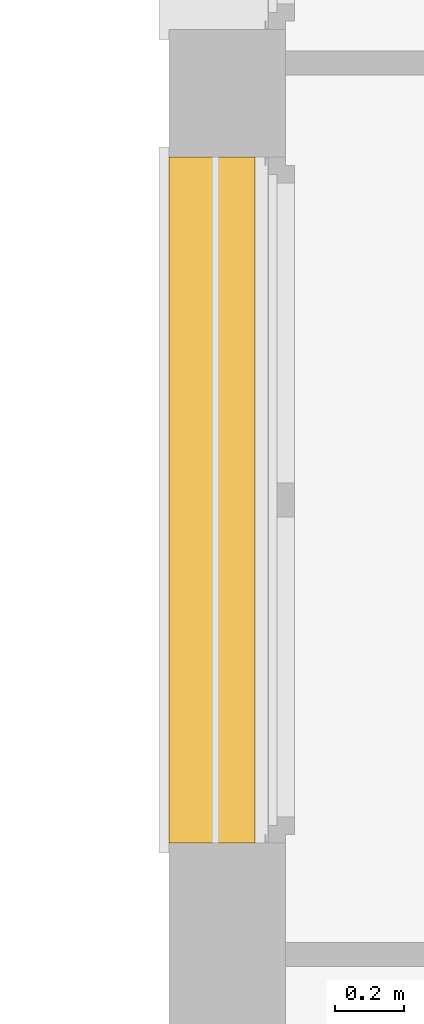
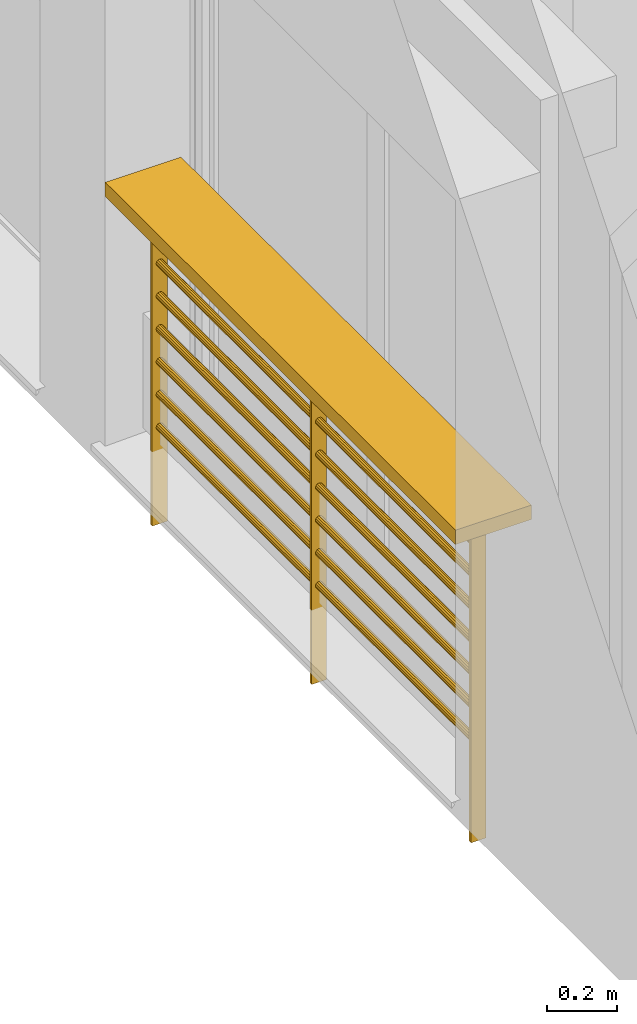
# One storey, part 93 of 164: 1 railing.
"""IFC2X3 building model written with IfcOpenShell, lengths in millimetres."""

from ifc_helpers import new_model, entity, si_unit, converted_unit, derived_unit, money_unit, direction, frame, origin_with_axes, place, context, subcontext, project, spatial, faceted_brep, source, transform, mapped, type_object, element, save


model = new_model("IFC2X3")

# Units and contexts
model_context = context("Model", 3, precision=0.01, world=origin_with_axes(), true_north=direction((0.0, 1.0)))
body_context = subcontext(model_context, "Body", "Model", "MODEL_VIEW")
ifc_project = project(units=[si_unit("LENGTHUNIT", "METRE", prefix="MILLI"), si_unit("AREAUNIT", "SQUARE_METRE"), si_unit("VOLUMEUNIT", "CUBIC_METRE"), converted_unit("PLANEANGLEUNIT", "DEGREE", entity("IfcPlaneAngleMeasure", 0.0174532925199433), si_unit("PLANEANGLEUNIT", "RADIAN"), dimensions=[0, 0, 0, 0, 0, 0, 0]), money_unit("USD"), converted_unit("TIMEUNIT", "Year", entity("IfcTimeMeasure", 31557600.0), si_unit("TIMEUNIT", "SECOND"), dimensions=[0, 0, 1, 0, 0, 0, 0]), si_unit("MASSUNIT", "GRAM", prefix="KILO"), si_unit("THERMODYNAMICTEMPERATUREUNIT", "DEGREE_CELSIUS"), si_unit("LUMINOUSINTENSITYUNIT", "LUMEN"), si_unit("ENERGYUNIT", "JOULE", prefix="MEGA"), derived_unit("THERMALCONDUCTANCEUNIT", [(si_unit("POWERUNIT", "WATT"), 1), (si_unit("LENGTHUNIT", "METRE"), -1), (si_unit("THERMODYNAMICTEMPERATUREUNIT", "KELVIN"), -1)]), derived_unit("SPECIFICHEATCAPACITYUNIT", [(si_unit("ENERGYUNIT", "JOULE"), 1), (si_unit("MASSUNIT", "GRAM", prefix="KILO"), -1), (si_unit("THERMODYNAMICTEMPERATUREUNIT", "KELVIN"), -1)]), derived_unit("MASSDENSITYUNIT", [(si_unit("MASSUNIT", "GRAM", prefix="KILO"), 1), (si_unit("VOLUMEUNIT", "CUBIC_METRE"), -1)])], contexts=[model_context])

# Site, building, storey
site_placement = place(None, origin_with_axes())
site = spatial("IfcSite", under=ifc_project, at=site_placement, Name="Site", CompositionType="ELEMENT")
building_placement = place(site_placement, origin_with_axes())
building = spatial("IfcBuilding", under=site, at=building_placement, Name="Bâtiment", CompositionType="ELEMENT")
storey_placement = place(building_placement, frame((0.0, 0.0, 5750.0), z_axis=(0.0, 0.0, 1.0), x_axis=(1.0, 0.0, 0.0)))
storey = spatial("IfcBuildingStorey", under=building, at=storey_placement, Name="Etage1", CompositionType="ELEMENT", Elevation=5750.0)

# Railing
railing_type = type_object("IfcRailingType", Name="Cadre avec câble 01 20", PredefinedType="NOTDEFINED")
shared_shape = source(origin_with_axes(), body_context, "Body", "Brep", [
    faceted_brep([(0.0, 125.0, 950.0), (0.0, -125.0, 950.0), (0.0, -125.0, 1000.0), (0.0, 125.0, 1000.0), (1999.999999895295, 125.0, 950.0), (1999.999999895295, -125.0, 950.0), (1999.999999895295, -125.0, 1000.0), (1999.999999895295, 125.0, 1000.0)], [[[0, 1, 2, 3]], [[0, 4, 5, 1]], [[1, 5, 6, 2]], [[3, 2, 6, 7]], [[4, 0, 3, 7]], [[5, 4, 7, 6]]]),
    faceted_brep([(84.99999999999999, -25.0, -176.0), (95.0, -25.0, -176.0), (95.0, -25.0, 950.0), (84.99999999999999, -25.0, 950.0), (84.99999999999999, 25.0, -176.0), (95.0, 25.0, -176.0), (95.0, 25.0, 950.0), (84.99999999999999, 25.0, 950.0)], [[[0, 1, 2, 3]], [[0, 4, 5, 1]], [[1, 5, 6, 2]], [[3, 2, 6, 7]], [[4, 0, 3, 7]], [[5, 4, 7, 6]]]),
    faceted_brep([(994.9999999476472, -25.0, -176.0), (1004.999999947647, -25.0, -176.0), (1004.999999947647, -25.0, 950.0), (994.9999999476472, -25.0, 950.0), (994.9999999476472, 25.0, -176.0), (1004.999999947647, 25.0, -176.0), (1004.999999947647, 25.0, 950.0), (994.9999999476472, 25.0, 950.0)], [[[0, 1, 2, 3]], [[0, 4, 5, 1]], [[1, 5, 6, 2]], [[3, 2, 6, 7]], [[4, 0, 3, 7]], [[5, 4, 7, 6]]]),
    faceted_brep([(1904.999999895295, -25.0, -176.0), (1914.999999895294, -25.0, -176.0), (1914.999999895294, -25.0, 950.0), (1904.999999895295, -25.0, 950.0), (1904.999999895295, 25.0, -176.0), (1914.999999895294, 25.0, -176.0), (1914.999999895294, 25.0, 950.0), (1904.999999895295, 25.0, 950.0)], [[[0, 1, 2, 3]], [[0, 4, 5, 1]], [[1, 5, 6, 2]], [[3, 2, 6, 7]], [[4, 0, 3, 7]], [[5, 4, 7, 6]]]),
    faceted_brep([(994.9999999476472, 10.82531754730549, 168.7500000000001), (994.9999999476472, 12.5, 162.5000000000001), (95.0, 12.5, 162.5), (95.0, 10.82531754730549, 168.75), (994.9999999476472, 10.82531754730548, 156.2500000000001), (994.9999999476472, 6.250000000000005, 173.3253175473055), (994.9999999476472, 0.0, 175.0000000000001), (994.9999999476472, -6.249999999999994, 173.3253175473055), (994.9999999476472, -10.82531754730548, 168.7500000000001), (994.9999999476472, -12.5, 162.5000000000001), (994.9999999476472, -10.82531754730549, 156.2500000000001), (994.9999999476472, -6.250000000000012, 151.6746824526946), (994.9999999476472, 0.0, 150.0000000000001), (994.9999999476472, 6.249999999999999, 151.6746824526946), (95.0, 10.82531754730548, 156.25), (95.0, 6.249999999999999, 151.6746824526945), (95.0, 0.0, 150.0), (95.0, -6.250000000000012, 151.6746824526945), (95.0, -10.82531754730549, 156.25), (95.0, -12.5, 162.5), (95.0, -10.82531754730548, 168.75), (95.0, -6.249999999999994, 173.3253175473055), (95.0, 0.0, 175.0), (95.0, 6.250000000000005, 173.3253175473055)], [[[0, 1, 2, 3]], [[4, 1, 0, 5, 6, 7, 8, 9, 10, 11, 12, 13]], [[1, 4, 14, 2]], [[3, 2, 14, 15, 16, 17, 18, 19, 20, 21, 22, 23]], [[5, 0, 3, 23]], [[6, 5, 23, 22]], [[7, 6, 22, 21]], [[8, 7, 21, 20]], [[9, 8, 20, 19]], [[10, 9, 19, 18]], [[11, 10, 18, 17]], [[12, 11, 17, 16]], [[13, 12, 16, 15]], [[4, 13, 15, 14]]]),
    faceted_brep([(1004.999999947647, 10.82531754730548, 156.2500000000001), (1004.999999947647, 12.5, 162.5000000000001), (1904.999999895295, 12.5, 162.5000000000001), (1904.999999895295, 10.82531754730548, 156.2500000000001), (1004.999999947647, 10.82531754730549, 168.7500000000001), (1004.999999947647, 6.249999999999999, 151.6746824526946), (1004.999999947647, 0.0, 150.0000000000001), (1004.999999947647, -6.250000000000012, 151.6746824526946), (1004.999999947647, -10.82531754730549, 156.2500000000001), (1004.999999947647, -12.5, 162.5000000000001), (1004.999999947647, -10.82531754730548, 168.7500000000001), (1004.999999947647, -6.249999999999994, 173.3253175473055), (1004.999999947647, 0.0, 175.0000000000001), (1004.999999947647, 6.250000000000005, 173.3253175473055), (1904.999999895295, 10.82531754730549, 168.7500000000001), (1904.999999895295, 6.250000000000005, 173.3253175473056), (1904.999999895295, 0.0, 175.0000000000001), (1904.999999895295, -6.249999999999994, 173.3253175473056), (1904.999999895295, -10.82531754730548, 168.7500000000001), (1904.999999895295, -12.5, 162.5000000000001), (1904.999999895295, -10.82531754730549, 156.2500000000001), (1904.999999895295, -6.250000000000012, 151.6746824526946), (1904.999999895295, 0.0, 150.0000000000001), (1904.999999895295, 6.249999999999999, 151.6746824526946)], [[[0, 1, 2, 3]], [[4, 1, 0, 5, 6, 7, 8, 9, 10, 11, 12, 13]], [[1, 4, 14, 2]], [[3, 2, 14, 15, 16, 17, 18, 19, 20, 21, 22, 23]], [[5, 0, 3, 23]], [[6, 5, 23, 22]], [[7, 6, 22, 21]], [[8, 7, 21, 20]], [[9, 8, 20, 19]], [[10, 9, 19, 18]], [[11, 10, 18, 17]], [[12, 11, 17, 16]], [[13, 12, 16, 15]], [[4, 13, 15, 14]]]),
    faceted_brep([(994.9999999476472, 10.82531754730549, 283.0357142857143), (994.9999999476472, 12.5, 276.7857142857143), (95.0, 12.5, 276.7857142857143), (95.0, 10.82531754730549, 283.0357142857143), (994.9999999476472, 10.82531754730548, 270.5357142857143), (994.9999999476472, 6.250000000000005, 287.6110318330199), (994.9999999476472, 0.0, 289.2857142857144), (994.9999999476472, -6.249999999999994, 287.6110318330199), (994.9999999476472, -10.82531754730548, 283.0357142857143), (994.9999999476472, -12.5, 276.7857142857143), (994.9999999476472, -10.82531754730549, 270.5357142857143), (994.9999999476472, -6.250000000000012, 265.9603967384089), (994.9999999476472, 0.0, 264.2857142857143), (994.9999999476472, 6.249999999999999, 265.9603967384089), (95.0, 10.82531754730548, 270.5357142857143), (95.0, 6.249999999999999, 265.9603967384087), (95.0, 0.0, 264.2857142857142), (95.0, -6.250000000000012, 265.9603967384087), (95.0, -10.82531754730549, 270.5357142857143), (95.0, -12.5, 276.7857142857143), (95.0, -10.82531754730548, 283.0357142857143), (95.0, -6.249999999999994, 287.6110318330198), (95.0, 0.0, 289.2857142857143), (95.0, 6.250000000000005, 287.6110318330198)], [[[0, 1, 2, 3]], [[4, 1, 0, 5, 6, 7, 8, 9, 10, 11, 12, 13]], [[1, 4, 14, 2]], [[3, 2, 14, 15, 16, 17, 18, 19, 20, 21, 22, 23]], [[5, 0, 3, 23]], [[6, 5, 23, 22]], [[7, 6, 22, 21]], [[8, 7, 21, 20]], [[9, 8, 20, 19]], [[10, 9, 19, 18]], [[11, 10, 18, 17]], [[12, 11, 17, 16]], [[13, 12, 16, 15]], [[4, 13, 15, 14]]]),
    faceted_brep([(1004.999999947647, 10.82531754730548, 270.5357142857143), (1004.999999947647, 12.5, 276.7857142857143), (1904.999999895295, 12.5, 276.7857142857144), (1904.999999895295, 10.82531754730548, 270.5357142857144), (1004.999999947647, 10.82531754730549, 283.0357142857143), (1004.999999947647, 6.249999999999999, 265.9603967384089), (1004.999999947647, 0.0, 264.2857142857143), (1004.999999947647, -6.250000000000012, 265.9603967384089), (1004.999999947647, -10.82531754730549, 270.5357142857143), (1004.999999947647, -12.5, 276.7857142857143), (1004.999999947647, -10.82531754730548, 283.0357142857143), (1004.999999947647, -6.249999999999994, 287.6110318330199), (1004.999999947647, 0.0, 289.2857142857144), (1004.999999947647, 6.250000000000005, 287.6110318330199), (1904.999999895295, 10.82531754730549, 283.0357142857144), (1904.999999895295, 6.250000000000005, 287.6110318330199), (1904.999999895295, 0.0, 289.2857142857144), (1904.999999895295, -6.249999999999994, 287.6110318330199), (1904.999999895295, -10.82531754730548, 283.0357142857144), (1904.999999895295, -12.5, 276.7857142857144), (1904.999999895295, -10.82531754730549, 270.5357142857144), (1904.999999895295, -6.250000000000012, 265.9603967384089), (1904.999999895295, 0.0, 264.2857142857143), (1904.999999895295, 6.249999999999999, 265.9603967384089)], [[[0, 1, 2, 3]], [[4, 1, 0, 5, 6, 7, 8, 9, 10, 11, 12, 13]], [[1, 4, 14, 2]], [[3, 2, 14, 15, 16, 17, 18, 19, 20, 21, 22, 23]], [[5, 0, 3, 23]], [[6, 5, 23, 22]], [[7, 6, 22, 21]], [[8, 7, 21, 20]], [[9, 8, 20, 19]], [[10, 9, 19, 18]], [[11, 10, 18, 17]], [[12, 11, 17, 16]], [[13, 12, 16, 15]], [[4, 13, 15, 14]]]),
    faceted_brep([(994.9999999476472, 10.82531754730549, 397.3214285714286), (994.9999999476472, 12.5, 391.0714285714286), (95.0, 12.5, 391.0714285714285), (95.0, 10.82531754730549, 397.3214285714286), (994.9999999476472, 10.82531754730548, 384.8214285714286), (994.9999999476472, 6.250000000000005, 401.896746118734), (994.9999999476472, 0.0, 403.5714285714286), (994.9999999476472, -6.249999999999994, 401.896746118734), (994.9999999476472, -10.82531754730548, 397.3214285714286), (994.9999999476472, -12.5, 391.0714285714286), (994.9999999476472, -10.82531754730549, 384.8214285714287), (994.9999999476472, -6.250000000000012, 380.2461110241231), (994.9999999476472, 0.0, 378.5714285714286), (994.9999999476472, 6.249999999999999, 380.2461110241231), (95.0, 10.82531754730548, 384.8214285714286), (95.0, 6.249999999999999, 380.2461110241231), (95.0, 0.0, 378.5714285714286), (95.0, -6.250000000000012, 380.2461110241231), (95.0, -10.82531754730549, 384.8214285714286), (95.0, -12.5, 391.0714285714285), (95.0, -10.82531754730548, 397.3214285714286), (95.0, -6.249999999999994, 401.896746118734), (95.0, 0.0, 403.5714285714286), (95.0, 6.250000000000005, 401.896746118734)], [[[0, 1, 2, 3]], [[4, 1, 0, 5, 6, 7, 8, 9, 10, 11, 12, 13]], [[1, 4, 14, 2]], [[3, 2, 14, 15, 16, 17, 18, 19, 20, 21, 22, 23]], [[5, 0, 3, 23]], [[6, 5, 23, 22]], [[7, 6, 22, 21]], [[8, 7, 21, 20]], [[9, 8, 20, 19]], [[10, 9, 19, 18]], [[11, 10, 18, 17]], [[12, 11, 17, 16]], [[13, 12, 16, 15]], [[4, 13, 15, 14]]]),
    faceted_brep([(1004.999999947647, 10.82531754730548, 384.8214285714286), (1004.999999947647, 12.5, 391.0714285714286), (1904.999999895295, 12.5, 391.0714285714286), (1904.999999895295, 10.82531754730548, 384.8214285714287), (1004.999999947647, 10.82531754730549, 397.3214285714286), (1004.999999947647, 6.249999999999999, 380.2461110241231), (1004.999999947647, 0.0, 378.5714285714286), (1004.999999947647, -6.250000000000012, 380.2461110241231), (1004.999999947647, -10.82531754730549, 384.8214285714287), (1004.999999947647, -12.5, 391.0714285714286), (1004.999999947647, -10.82531754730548, 397.3214285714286), (1004.999999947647, -6.249999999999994, 401.896746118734), (1004.999999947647, 0.0, 403.5714285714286), (1004.999999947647, 6.250000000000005, 401.896746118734), (1904.999999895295, 10.82531754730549, 397.3214285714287), (1904.999999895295, 6.250000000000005, 401.8967461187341), (1904.999999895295, 0.0, 403.5714285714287), (1904.999999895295, -6.249999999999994, 401.8967461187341), (1904.999999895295, -10.82531754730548, 397.3214285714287), (1904.999999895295, -12.5, 391.0714285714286), (1904.999999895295, -10.82531754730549, 384.8214285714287), (1904.999999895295, -6.250000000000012, 380.2461110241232), (1904.999999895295, 0.0, 378.5714285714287), (1904.999999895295, 6.249999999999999, 380.2461110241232)], [[[0, 1, 2, 3]], [[4, 1, 0, 5, 6, 7, 8, 9, 10, 11, 12, 13]], [[1, 4, 14, 2]], [[3, 2, 14, 15, 16, 17, 18, 19, 20, 21, 22, 23]], [[5, 0, 3, 23]], [[6, 5, 23, 22]], [[7, 6, 22, 21]], [[8, 7, 21, 20]], [[9, 8, 20, 19]], [[10, 9, 19, 18]], [[11, 10, 18, 17]], [[12, 11, 17, 16]], [[13, 12, 16, 15]], [[4, 13, 15, 14]]]),
    faceted_brep([(994.9999999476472, 10.82531754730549, 511.6071428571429), (994.9999999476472, 12.5, 505.3571428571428), (95.0, 12.5, 505.3571428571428), (95.0, 10.82531754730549, 511.6071428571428), (994.9999999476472, 10.82531754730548, 499.1071428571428), (994.9999999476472, 6.250000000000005, 516.1824604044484), (994.9999999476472, 0.0, 517.8571428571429), (994.9999999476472, -6.249999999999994, 516.1824604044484), (994.9999999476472, -10.82531754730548, 511.6071428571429), (994.9999999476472, -12.5, 505.3571428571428), (994.9999999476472, -10.82531754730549, 499.1071428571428), (994.9999999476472, -6.250000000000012, 494.5318253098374), (994.9999999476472, 0.0, 492.8571428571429), (994.9999999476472, 6.249999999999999, 494.5318253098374), (95.0, 10.82531754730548, 499.1071428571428), (95.0, 6.249999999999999, 494.5318253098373), (95.0, 0.0, 492.8571428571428), (95.0, -6.250000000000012, 494.5318253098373), (95.0, -10.82531754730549, 499.1071428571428), (95.0, -12.5, 505.3571428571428), (95.0, -10.82531754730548, 511.6071428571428), (95.0, -6.249999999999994, 516.1824604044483), (95.0, 0.0, 517.8571428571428), (95.0, 6.250000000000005, 516.1824604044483)], [[[0, 1, 2, 3]], [[4, 1, 0, 5, 6, 7, 8, 9, 10, 11, 12, 13]], [[1, 4, 14, 2]], [[3, 2, 14, 15, 16, 17, 18, 19, 20, 21, 22, 23]], [[5, 0, 3, 23]], [[6, 5, 23, 22]], [[7, 6, 22, 21]], [[8, 7, 21, 20]], [[9, 8, 20, 19]], [[10, 9, 19, 18]], [[11, 10, 18, 17]], [[12, 11, 17, 16]], [[13, 12, 16, 15]], [[4, 13, 15, 14]]]),
    faceted_brep([(1004.999999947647, 10.82531754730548, 499.1071428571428), (1004.999999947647, 12.5, 505.3571428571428), (1904.999999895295, 12.5, 505.3571428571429), (1904.999999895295, 10.82531754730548, 499.1071428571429), (1004.999999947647, 10.82531754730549, 511.6071428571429), (1004.999999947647, 6.249999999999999, 494.5318253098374), (1004.999999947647, 0.0, 492.8571428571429), (1004.999999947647, -6.250000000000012, 494.5318253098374), (1004.999999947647, -10.82531754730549, 499.1071428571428), (1004.999999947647, -12.5, 505.3571428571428), (1004.999999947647, -10.82531754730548, 511.6071428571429), (1004.999999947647, -6.249999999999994, 516.1824604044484), (1004.999999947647, 0.0, 517.8571428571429), (1004.999999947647, 6.250000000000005, 516.1824604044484), (1904.999999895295, 10.82531754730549, 511.6071428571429), (1904.999999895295, 6.250000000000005, 516.1824604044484), (1904.999999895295, 0.0, 517.8571428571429), (1904.999999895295, -6.249999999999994, 516.1824604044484), (1904.999999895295, -10.82531754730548, 511.6071428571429), (1904.999999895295, -12.5, 505.3571428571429), (1904.999999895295, -10.82531754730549, 499.1071428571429), (1904.999999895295, -6.250000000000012, 494.5318253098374), (1904.999999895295, 0.0, 492.8571428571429), (1904.999999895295, 6.249999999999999, 494.5318253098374)], [[[0, 1, 2, 3]], [[4, 1, 0, 5, 6, 7, 8, 9, 10, 11, 12, 13]], [[1, 4, 14, 2]], [[3, 2, 14, 15, 16, 17, 18, 19, 20, 21, 22, 23]], [[5, 0, 3, 23]], [[6, 5, 23, 22]], [[7, 6, 22, 21]], [[8, 7, 21, 20]], [[9, 8, 20, 19]], [[10, 9, 19, 18]], [[11, 10, 18, 17]], [[12, 11, 17, 16]], [[13, 12, 16, 15]], [[4, 13, 15, 14]]]),
    faceted_brep([(994.9999999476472, 10.82531754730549, 625.8928571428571), (994.9999999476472, 12.5, 619.6428571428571), (95.0, 12.5, 619.642857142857), (95.0, 10.82531754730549, 625.892857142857), (994.9999999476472, 10.82531754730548, 613.3928571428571), (994.9999999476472, 6.250000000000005, 630.4681746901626), (994.9999999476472, 0.0, 632.1428571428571), (994.9999999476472, -6.249999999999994, 630.4681746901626), (994.9999999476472, -10.82531754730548, 625.8928571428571), (994.9999999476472, -12.5, 619.6428571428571), (994.9999999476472, -10.82531754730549, 613.3928571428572), (994.9999999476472, -6.250000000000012, 608.8175395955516), (994.9999999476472, 0.0, 607.1428571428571), (994.9999999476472, 6.249999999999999, 608.8175395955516), (95.0, 10.82531754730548, 613.3928571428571), (95.0, 6.249999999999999, 608.8175395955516), (95.0, 0.0, 607.1428571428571), (95.0, -6.250000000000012, 608.8175395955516), (95.0, -10.82531754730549, 613.3928571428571), (95.0, -12.5, 619.642857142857), (95.0, -10.82531754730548, 625.892857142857), (95.0, -6.249999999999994, 630.4681746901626), (95.0, 0.0, 632.1428571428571), (95.0, 6.250000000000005, 630.4681746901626)], [[[0, 1, 2, 3]], [[4, 1, 0, 5, 6, 7, 8, 9, 10, 11, 12, 13]], [[1, 4, 14, 2]], [[3, 2, 14, 15, 16, 17, 18, 19, 20, 21, 22, 23]], [[5, 0, 3, 23]], [[6, 5, 23, 22]], [[7, 6, 22, 21]], [[8, 7, 21, 20]], [[9, 8, 20, 19]], [[10, 9, 19, 18]], [[11, 10, 18, 17]], [[12, 11, 17, 16]], [[13, 12, 16, 15]], [[4, 13, 15, 14]]]),
    faceted_brep([(1004.999999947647, 10.82531754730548, 613.3928571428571), (1004.999999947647, 12.5, 619.6428571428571), (1904.999999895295, 12.5, 619.6428571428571), (1904.999999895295, 10.82531754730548, 613.3928571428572), (1004.999999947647, 10.82531754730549, 625.8928571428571), (1004.999999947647, 6.249999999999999, 608.8175395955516), (1004.999999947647, 0.0, 607.1428571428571), (1004.999999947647, -6.250000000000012, 608.8175395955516), (1004.999999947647, -10.82531754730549, 613.3928571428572), (1004.999999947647, -12.5, 619.6428571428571), (1004.999999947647, -10.82531754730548, 625.8928571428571), (1004.999999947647, -6.249999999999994, 630.4681746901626), (1004.999999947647, 0.0, 632.1428571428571), (1004.999999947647, 6.250000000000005, 630.4681746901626), (1904.999999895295, 10.82531754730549, 625.8928571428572), (1904.999999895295, 6.250000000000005, 630.4681746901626), (1904.999999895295, 0.0, 632.1428571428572), (1904.999999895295, -6.249999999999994, 630.4681746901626), (1904.999999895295, -10.82531754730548, 625.8928571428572), (1904.999999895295, -12.5, 619.6428571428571), (1904.999999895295, -10.82531754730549, 613.3928571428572), (1904.999999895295, -6.250000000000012, 608.8175395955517), (1904.999999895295, 0.0, 607.1428571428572), (1904.999999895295, 6.249999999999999, 608.8175395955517)], [[[0, 1, 2, 3]], [[4, 1, 0, 5, 6, 7, 8, 9, 10, 11, 12, 13]], [[1, 4, 14, 2]], [[3, 2, 14, 15, 16, 17, 18, 19, 20, 21, 22, 23]], [[5, 0, 3, 23]], [[6, 5, 23, 22]], [[7, 6, 22, 21]], [[8, 7, 21, 20]], [[9, 8, 20, 19]], [[10, 9, 19, 18]], [[11, 10, 18, 17]], [[12, 11, 17, 16]], [[13, 12, 16, 15]], [[4, 13, 15, 14]]]),
    faceted_brep([(994.9999999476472, 10.82531754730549, 740.1785714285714), (994.9999999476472, 12.5, 733.9285714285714), (95.0, 12.5, 733.9285714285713), (95.0, 10.82531754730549, 740.1785714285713), (994.9999999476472, 10.82531754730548, 727.6785714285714), (994.9999999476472, 6.250000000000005, 744.7538889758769), (994.9999999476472, 0.0, 746.4285714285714), (994.9999999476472, -6.249999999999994, 744.7538889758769), (994.9999999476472, -10.82531754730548, 740.1785714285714), (994.9999999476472, -12.5, 733.9285714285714), (994.9999999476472, -10.82531754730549, 727.6785714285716), (994.9999999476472, -6.250000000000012, 723.1032538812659), (994.9999999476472, 0.0, 721.4285714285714), (994.9999999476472, 6.249999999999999, 723.1032538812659), (95.0, 10.82531754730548, 727.6785714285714), (95.0, 6.249999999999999, 723.1032538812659), (95.0, 0.0, 721.4285714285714), (95.0, -6.250000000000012, 723.1032538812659), (95.0, -10.82531754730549, 727.6785714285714), (95.0, -12.5, 733.9285714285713), (95.0, -10.82531754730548, 740.1785714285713), (95.0, -6.249999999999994, 744.7538889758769), (95.0, 0.0, 746.4285714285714), (95.0, 6.250000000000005, 744.7538889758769)], [[[0, 1, 2, 3]], [[4, 1, 0, 5, 6, 7, 8, 9, 10, 11, 12, 13]], [[1, 4, 14, 2]], [[3, 2, 14, 15, 16, 17, 18, 19, 20, 21, 22, 23]], [[5, 0, 3, 23]], [[6, 5, 23, 22]], [[7, 6, 22, 21]], [[8, 7, 21, 20]], [[9, 8, 20, 19]], [[10, 9, 19, 18]], [[11, 10, 18, 17]], [[12, 11, 17, 16]], [[13, 12, 16, 15]], [[4, 13, 15, 14]]]),
    faceted_brep([(1004.999999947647, 10.82531754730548, 727.6785714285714), (1004.999999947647, 12.5, 733.9285714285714), (1904.999999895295, 12.5, 733.9285714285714), (1904.999999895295, 10.82531754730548, 727.6785714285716), (1004.999999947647, 10.82531754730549, 740.1785714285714), (1004.999999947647, 6.249999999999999, 723.1032538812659), (1004.999999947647, 0.0, 721.4285714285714), (1004.999999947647, -6.250000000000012, 723.1032538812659), (1004.999999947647, -10.82531754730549, 727.6785714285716), (1004.999999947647, -12.5, 733.9285714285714), (1004.999999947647, -10.82531754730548, 740.1785714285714), (1004.999999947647, -6.249999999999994, 744.7538889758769), (1004.999999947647, 0.0, 746.4285714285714), (1004.999999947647, 6.250000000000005, 744.7538889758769), (1904.999999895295, 10.82531754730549, 740.1785714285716), (1904.999999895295, 6.250000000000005, 744.753888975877), (1904.999999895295, 0.0, 746.4285714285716), (1904.999999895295, -6.249999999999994, 744.753888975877), (1904.999999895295, -10.82531754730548, 740.1785714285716), (1904.999999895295, -12.5, 733.9285714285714), (1904.999999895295, -10.82531754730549, 727.6785714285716), (1904.999999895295, -6.250000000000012, 723.103253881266), (1904.999999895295, 0.0, 721.4285714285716), (1904.999999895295, 6.249999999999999, 723.103253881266)], [[[0, 1, 2, 3]], [[4, 1, 0, 5, 6, 7, 8, 9, 10, 11, 12, 13]], [[1, 4, 14, 2]], [[3, 2, 14, 15, 16, 17, 18, 19, 20, 21, 22, 23]], [[5, 0, 3, 23]], [[6, 5, 23, 22]], [[7, 6, 22, 21]], [[8, 7, 21, 20]], [[9, 8, 20, 19]], [[10, 9, 19, 18]], [[11, 10, 18, 17]], [[12, 11, 17, 16]], [[13, 12, 16, 15]], [[4, 13, 15, 14]]]),
    faceted_brep([(994.9999999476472, 10.82531754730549, 854.4642857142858), (994.9999999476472, 12.5, 848.2142857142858), (95.0, 12.5, 848.2142857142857), (95.0, 10.82531754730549, 854.4642857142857), (994.9999999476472, 10.82531754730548, 841.9642857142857), (994.9999999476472, 6.250000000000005, 859.0396032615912), (994.9999999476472, 0.0, 860.7142857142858), (994.9999999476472, -6.249999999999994, 859.0396032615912), (994.9999999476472, -10.82531754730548, 854.4642857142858), (994.9999999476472, -12.5, 848.2142857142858), (994.9999999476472, -10.82531754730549, 841.9642857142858), (994.9999999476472, -6.250000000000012, 837.3889681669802), (994.9999999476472, 0.0, 835.7142857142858), (994.9999999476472, 6.249999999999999, 837.3889681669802), (95.0, 10.82531754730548, 841.9642857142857), (95.0, 6.249999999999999, 837.3889681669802), (95.0, 0.0, 835.7142857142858), (95.0, -6.250000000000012, 837.3889681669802), (95.0, -10.82531754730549, 841.9642857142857), (95.0, -12.5, 848.2142857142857), (95.0, -10.82531754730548, 854.4642857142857), (95.0, -6.249999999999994, 859.0396032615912), (95.0, 0.0, 860.7142857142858), (95.0, 6.250000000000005, 859.0396032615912)], [[[0, 1, 2, 3]], [[4, 1, 0, 5, 6, 7, 8, 9, 10, 11, 12, 13]], [[1, 4, 14, 2]], [[3, 2, 14, 15, 16, 17, 18, 19, 20, 21, 22, 23]], [[5, 0, 3, 23]], [[6, 5, 23, 22]], [[7, 6, 22, 21]], [[8, 7, 21, 20]], [[9, 8, 20, 19]], [[10, 9, 19, 18]], [[11, 10, 18, 17]], [[12, 11, 17, 16]], [[13, 12, 16, 15]], [[4, 13, 15, 14]]]),
    faceted_brep([(1004.999999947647, 10.82531754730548, 841.9642857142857), (1004.999999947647, 12.5, 848.2142857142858), (1904.999999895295, 12.5, 848.2142857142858), (1904.999999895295, 10.82531754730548, 841.9642857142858), (1004.999999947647, 10.82531754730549, 854.4642857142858), (1004.999999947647, 6.249999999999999, 837.3889681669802), (1004.999999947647, 0.0, 835.7142857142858), (1004.999999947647, -6.250000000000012, 837.3889681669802), (1004.999999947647, -10.82531754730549, 841.9642857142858), (1004.999999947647, -12.5, 848.2142857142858), (1004.999999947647, -10.82531754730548, 854.4642857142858), (1004.999999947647, -6.249999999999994, 859.0396032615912), (1004.999999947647, 0.0, 860.7142857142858), (1004.999999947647, 6.250000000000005, 859.0396032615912), (1904.999999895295, 10.82531754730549, 854.4642857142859), (1904.999999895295, 6.250000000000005, 859.0396032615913), (1904.999999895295, 0.0, 860.7142857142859), (1904.999999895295, -6.249999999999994, 859.0396032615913), (1904.999999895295, -10.82531754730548, 854.4642857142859), (1904.999999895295, -12.5, 848.2142857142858), (1904.999999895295, -10.82531754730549, 841.9642857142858), (1904.999999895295, -6.250000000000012, 837.3889681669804), (1904.999999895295, 0.0, 835.7142857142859), (1904.999999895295, 6.249999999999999, 837.3889681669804)], [[[0, 1, 2, 3]], [[4, 1, 0, 5, 6, 7, 8, 9, 10, 11, 12, 13]], [[1, 4, 14, 2]], [[3, 2, 14, 15, 16, 17, 18, 19, 20, 21, 22, 23]], [[5, 0, 3, 23]], [[6, 5, 23, 22]], [[7, 6, 22, 21]], [[8, 7, 21, 20]], [[9, 8, 20, 19]], [[10, 9, 19, 18]], [[11, 10, 18, 17]], [[12, 11, 17, 16]], [[13, 12, 16, 15]], [[4, 13, 15, 14]]]),
])
railing_placement = place(storey_placement, frame((2216759.260670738, -649629.7674292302, 0.0), z_axis=(0.0, 0.0, 1.0), x_axis=(0.0, 1.0, 0.0)))
element("IfcRailing", 1, at=railing_placement, inside=storey, type_object=railing_type, Name="Obj.-002", PredefinedType="NOTDEFINED", context=body_context, shape_type="MappedRepresentation", body=[
    mapped(shared_shape, transform((0.0, 0.0, 0.0))),
])

save(model, "model.ifc")
